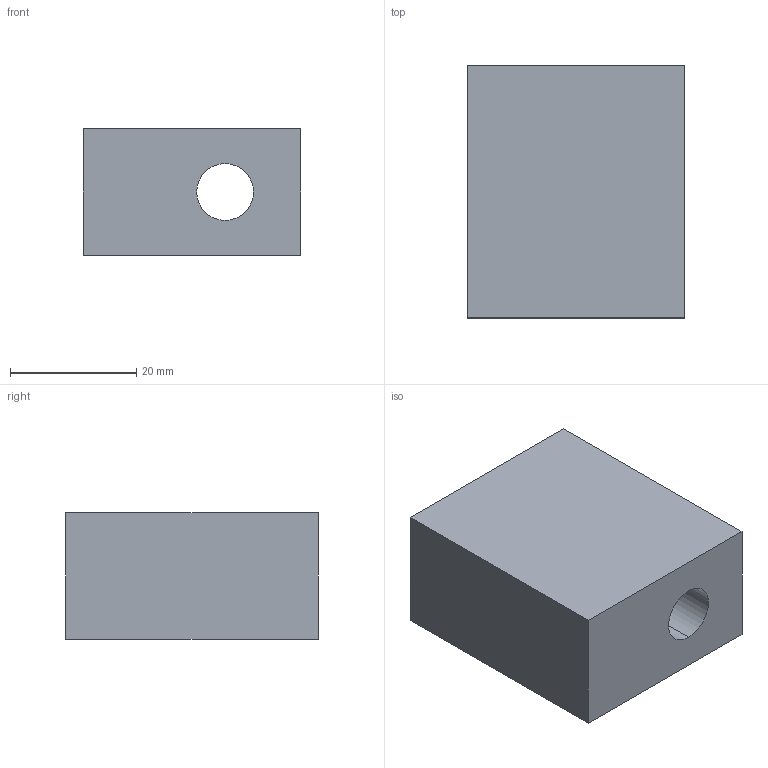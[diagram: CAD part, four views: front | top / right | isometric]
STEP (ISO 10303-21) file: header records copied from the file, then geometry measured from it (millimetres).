
FILE_DESCRIPTION (( 'STEP AP203' ), '1' );
FILE_NAME ('084.106.141.STEP', '2013-01-23T14:24:31', ( 'Alusic' ), ( 'Alusic' ), 'SwSTEP 2.0', 'SolidWorks 2011', '' );
FILE_SCHEMA (( 'CONFIG_CONTROL_DESIGN' ));
Length unit declared in the file: millimetre
Products named in the file (1): 084.106.141
Bounding box: 34.5 x 40 x 20 mm (x, y, z)
Volume: 25055.3 mm3; surface area: 6743.7 mm2
Topology: 1 solids, 1 shells, 8 faces, 18 edges, 12 vertices
Faces by surface type: plane 6, cylinder 2
Entity records: 307 total; most frequent: DIRECTION 40, CARTESIAN_POINT 39, ORIENTED_EDGE 36, EDGE_CURVE 18, VECTOR 14, LINE 14, AXIS2_PLACEMENT_3D 13, VERTEX_POINT 12
